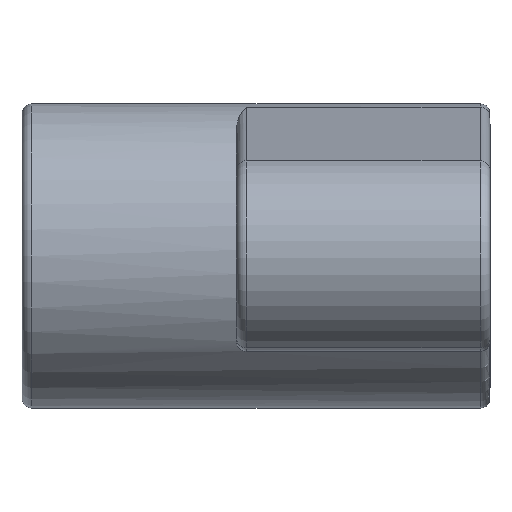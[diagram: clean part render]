
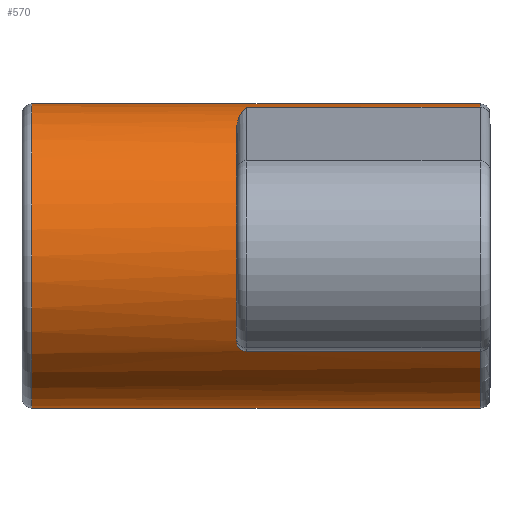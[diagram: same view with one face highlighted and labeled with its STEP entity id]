
A CAD part, left-side view. The second image highlights one B-rep face of the part: STEP entity #570.
In plain terms, the highlighted cylindrical face has radius 7.8 mm (diameter 15.6 mm), a partial arc.
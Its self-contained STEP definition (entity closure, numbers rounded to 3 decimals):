
#44 = B_SPLINE_CURVE_WITH_KNOTS ( 'NONE', 3,
 ( #1623, #1770, #1648, #1615, #1536, #1524, #1517, #1510 ),
 .UNSPECIFIED., .F., .F.,
 ( 4, 2, 2, 4 ),
 ( 0., 0.001, 0.001, 0.003 ),
 .UNSPECIFIED. ) ;
#62 = ORIENTED_EDGE ( 'NONE', *, *, #1237, .T. ) ;
#177 = DIRECTION ( 'NONE',  ( 0., -1., 0. ) ) ;
#199 = CARTESIAN_POINT ( 'NONE',  ( 0., 23.5, 7.8 ) ) ;
#233 = CARTESIAN_POINT ( 'NONE',  ( -6.083, 12.574, -4.883 ) ) ;
#247 = AXIS2_PLACEMENT_3D ( 'NONE', #1349, #1335, #1751 ) ;
#325 = ORIENTED_EDGE ( 'NONE', *, *, #1556, .T. ) ;
#367 = EDGE_CURVE ( 'NONE', #1210, #796, #1779, .T. ) ;
#387 = VERTEX_POINT ( 'NONE', #1582 ) ;
#392 = CARTESIAN_POINT ( 'NONE',  ( 0., 23.5, 0. ) ) ;
#402 = DIRECTION ( 'NONE',  ( 0., 1., 0. ) ) ;
#404 = VERTEX_POINT ( 'NONE', #199 ) ;
#417 = CARTESIAN_POINT ( 'NONE',  ( 0., 23.5, -7.8 ) ) ;
#426 = EDGE_LOOP ( 'NONE', ( #1028, #1348, #62, #930, #1229, #325, #860, #863, #1305, #447 ) ) ;
#430 = CARTESIAN_POINT ( 'NONE',  ( 0., 13., 7.8 ) ) ;
#447 = ORIENTED_EDGE ( 'NONE', *, *, #1521, .T. ) ;
#456 = LINE ( 'NONE', #430, #1172 ) ;
#502 = CARTESIAN_POINT ( 'NONE',  ( 0., 0.5, 0. ) ) ;
#543 = DIRECTION ( 'NONE',  ( 0., 0., 1. ) ) ;
#556 = EDGE_CURVE ( 'NONE', #1737, #1210, #44, .T. ) ;
#570 = ADVANCED_FACE ( 'NONE', ( #1850 ), #721, .T. ) ;
#571 = VECTOR ( 'NONE', #177, 1000. ) ;
#575 = DIRECTION ( 'NONE',  ( 0., -1., 0. ) ) ;
#606 = CARTESIAN_POINT ( 'NONE',  ( 0., 0.5, -7.8 ) ) ;
#623 = VERTEX_POINT ( 'NONE', #820 ) ;
#654 = DIRECTION ( 'NONE',  ( 0., 0., 1. ) ) ;
#659 = VECTOR ( 'NONE', #1756, 1000. ) ;
#666 = CARTESIAN_POINT ( 'NONE',  ( -6.143, 12.773, -4.807 ) ) ;
#680 = AXIS2_PLACEMENT_3D ( 'NONE', #392, #1389, #543 ) ;
#721 = CYLINDRICAL_SURFACE ( 'NONE', #247, 7.8 ) ;
#723 = CARTESIAN_POINT ( 'NONE',  ( -1.68, 12.5, 7.617 ) ) ;
#732 = CARTESIAN_POINT ( 'NONE',  ( 0., 0.5, 0. ) ) ;
#750 = VECTOR ( 'NONE', #1432, 1000. ) ;
#796 = VERTEX_POINT ( 'NONE', #797 ) ;
#797 = CARTESIAN_POINT ( 'NONE',  ( -1.68, 0.5, 7.617 ) ) ;
#814 = CARTESIAN_POINT ( 'NONE',  ( -6.283, 12.957, -4.623 ) ) ;
#820 = CARTESIAN_POINT ( 'NONE',  ( -6.452, 13., -4.383 ) ) ;
#860 = ORIENTED_EDGE ( 'NONE', *, *, #1663, .T. ) ;
#863 = ORIENTED_EDGE ( 'NONE', *, *, #556, .T. ) ;
#873 = AXIS2_PLACEMENT_3D ( 'NONE', #1258, #402, #1394 ) ;
#874 = CARTESIAN_POINT ( 'NONE',  ( 0., 13., -7.8 ) ) ;
#879 = CARTESIAN_POINT ( 'NONE',  ( 0., 0.5, 7.8 ) ) ;
#885 = DIRECTION ( 'NONE',  ( 0., 0., 1. ) ) ;
#930 = ORIENTED_EDGE ( 'NONE', *, *, #1259, .T. ) ;
#959 = CARTESIAN_POINT ( 'NONE',  ( -6.452, 13., -4.383 ) ) ;
#962 = LINE ( 'NONE', #1036, #571 ) ;
#1006 = CARTESIAN_POINT ( 'NONE',  ( -6.083, 12.5, -4.883 ) ) ;
#1028 = ORIENTED_EDGE ( 'NONE', *, *, #1196, .F. ) ;
#1036 = CARTESIAN_POINT ( 'NONE',  ( -6.083, 24., -4.883 ) ) ;
#1063 = VERTEX_POINT ( 'NONE', #417 ) ;
#1128 = LINE ( 'NONE', #874, #750 ) ;
#1172 = VECTOR ( 'NONE', #575, 1000. ) ;
#1196 = EDGE_CURVE ( 'NONE', #404, #1253, #456, .T. ) ;
#1210 = VERTEX_POINT ( 'NONE', #723 ) ;
#1218 = AXIS2_PLACEMENT_3D ( 'NONE', #732, #1720, #885 ) ;
#1228 = CARTESIAN_POINT ( 'NONE',  ( -6.083, 12.5, -4.883 ) ) ;
#1229 = ORIENTED_EDGE ( 'NONE', *, *, #1334, .F. ) ;
#1230 = VERTEX_POINT ( 'NONE', #1006 ) ;
#1237 = EDGE_CURVE ( 'NONE', #1063, #1315, #1128, .T. ) ;
#1253 = VERTEX_POINT ( 'NONE', #879 ) ;
#1258 = CARTESIAN_POINT ( 'NONE',  ( 0., 13., 0. ) ) ;
#1259 = EDGE_CURVE ( 'NONE', #1315, #387, #1836, .T. ) ;
#1277 = AXIS2_PLACEMENT_3D ( 'NONE', #502, #1501, #654 ) ;
#1305 = ORIENTED_EDGE ( 'NONE', *, *, #367, .T. ) ;
#1315 = VERTEX_POINT ( 'NONE', #606 ) ;
#1329 = B_SPLINE_CURVE_WITH_KNOTS ( 'NONE', 3,
 ( #1228, #233, #1512, #666, #1655, #814, #1790, #959 ),
 .UNSPECIFIED., .F., .F.,
 ( 4, 2, 2, 4 ),
 ( 0., 0., 0., 0.001 ),
 .UNSPECIFIED. ) ;
#1334 = EDGE_CURVE ( 'NONE', #1230, #387, #962, .T. ) ;
#1335 = DIRECTION ( 'NONE',  ( 0., -1., 0. ) ) ;
#1348 = ORIENTED_EDGE ( 'NONE', *, *, #1639, .T. ) ;
#1349 = CARTESIAN_POINT ( 'NONE',  ( 0., 13., 0. ) ) ;
#1389 = DIRECTION ( 'NONE',  ( 0., -1., 0. ) ) ;
#1394 = DIRECTION ( 'NONE',  ( 0., 0., 1. ) ) ;
#1432 = DIRECTION ( 'NONE',  ( 0., -1., 0. ) ) ;
#1464 = CIRCLE ( 'NONE', #873, 7.8 ) ;
#1471 = CIRCLE ( 'NONE', #1277, 7.8 ) ;
#1501 = DIRECTION ( 'NONE',  ( 0., 1., 0. ) ) ;
#1510 = CARTESIAN_POINT ( 'NONE',  ( -1.68, 12.5, 7.617 ) ) ;
#1512 = CARTESIAN_POINT ( 'NONE',  ( -6.096, 12.647, -4.866 ) ) ;
#1517 = CARTESIAN_POINT ( 'NONE',  ( -2.131, 12.617, 7.517 ) ) ;
#1521 = EDGE_CURVE ( 'NONE', #796, #1253, #1471, .T. ) ;
#1524 = CARTESIAN_POINT ( 'NONE',  ( -2.572, 12.734, 7.379 ) ) ;
#1536 = CARTESIAN_POINT ( 'NONE',  ( -3.218, 12.876, 7.109 ) ) ;
#1556 = EDGE_CURVE ( 'NONE', #1230, #623, #1329, .T. ) ;
#1582 = CARTESIAN_POINT ( 'NONE',  ( -6.083, 0.5, -4.883 ) ) ;
#1594 = CARTESIAN_POINT ( 'NONE',  ( -4.256, 13., 6.537 ) ) ;
#1595 = CARTESIAN_POINT ( 'NONE',  ( -1.68, 13., 7.617 ) ) ;
#1615 = CARTESIAN_POINT ( 'NONE',  ( -3.431, 12.918, 7.009 ) ) ;
#1623 = CARTESIAN_POINT ( 'NONE',  ( -4.256, 13., 6.537 ) ) ;
#1639 = EDGE_CURVE ( 'NONE', #404, #1063, #1842, .T. ) ;
#1648 = CARTESIAN_POINT ( 'NONE',  ( -3.85, 12.98, 6.788 ) ) ;
#1655 = CARTESIAN_POINT ( 'NONE',  ( -6.175, 12.827, -4.766 ) ) ;
#1663 = EDGE_CURVE ( 'NONE', #623, #1737, #1464, .T. ) ;
#1720 = DIRECTION ( 'NONE',  ( 0., 1., 0. ) ) ;
#1737 = VERTEX_POINT ( 'NONE', #1594 ) ;
#1751 = DIRECTION ( 'NONE',  ( 0., 0., -1. ) ) ;
#1756 = DIRECTION ( 'NONE',  ( 0., -1., 0. ) ) ;
#1770 = CARTESIAN_POINT ( 'NONE',  ( -4.055, 13., 6.668 ) ) ;
#1779 = LINE ( 'NONE', #1595, #659 ) ;
#1790 = CARTESIAN_POINT ( 'NONE',  ( -6.369, 13., -4.505 ) ) ;
#1836 = CIRCLE ( 'NONE', #1218, 7.8 ) ;
#1842 = CIRCLE ( 'NONE', #680, 7.8 ) ;
#1850 = FACE_OUTER_BOUND ( 'NONE', #426, .T. ) ;
